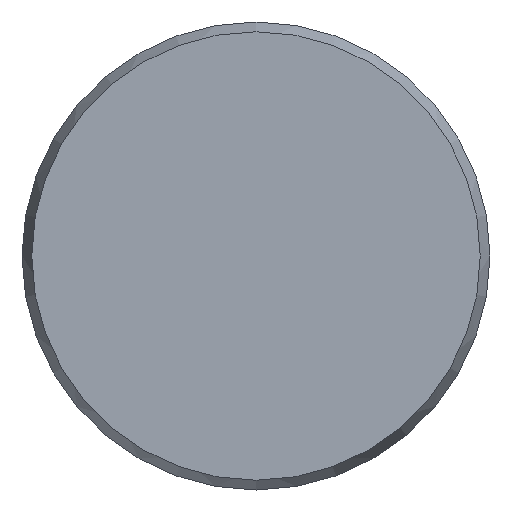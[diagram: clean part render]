
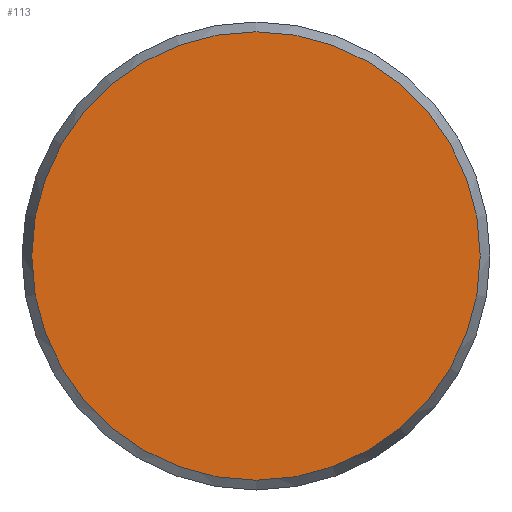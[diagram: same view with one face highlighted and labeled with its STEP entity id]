
A CAD part, left-side view. The second image highlights one B-rep face of the part: STEP entity #113.
In plain terms, the highlighted planar face has unit normal (-1, 0, 0).
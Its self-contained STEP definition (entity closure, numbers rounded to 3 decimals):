
#113=ADVANCED_FACE('',(#126),#122,.T.);
#122=PLANE('',#182);
#126=FACE_OUTER_BOUND('',#130,.T.);
#130=EDGE_LOOP('',(#144));
#144=ORIENTED_EDGE('',*,*,#165,.T.);
#158=VERTEX_POINT('',#234);
#165=EDGE_CURVE('',#158,#158,#172,.T.);
#172=CIRCLE('',#181,5.75);
#181=AXIS2_PLACEMENT_3D('',#233,#201,#202);
#182=AXIS2_PLACEMENT_3D('',#235,#203,#204);
#201=DIRECTION('',(-1.,0.,0.));
#202=DIRECTION('',(0.,0.,1.));
#203=DIRECTION('',(-1.,0.,0.));
#204=DIRECTION('',(0.,0.,1.));
#233=CARTESIAN_POINT('',(7856.853,6103.288,0.));
#234=CARTESIAN_POINT('',(7856.853,6103.288,5.75));
#235=CARTESIAN_POINT('',(7856.853,6103.288,0.));
